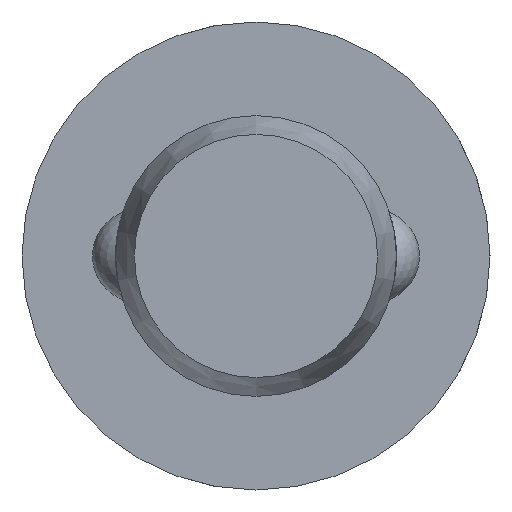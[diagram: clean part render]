
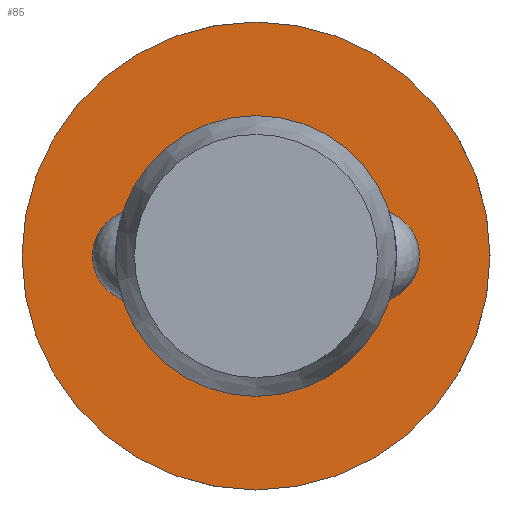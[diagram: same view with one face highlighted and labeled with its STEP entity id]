
A CAD part, left-side view. The second image highlights one B-rep face of the part: STEP entity #85.
In plain terms, the highlighted planar face has unit normal (-1, 0, 0).
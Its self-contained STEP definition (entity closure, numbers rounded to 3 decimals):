
#85 = ADVANCED_FACE( '', ( #131, #132 ), #133, .F. );
#131 = FACE_OUTER_BOUND( '', #204, .T. );
#132 = FACE_BOUND( '', #205, .T. );
#133 = PLANE( '', #206 );
#204 = EDGE_LOOP( '', ( #322 ) );
#205 = EDGE_LOOP( '', ( #323 ) );
#206 = AXIS2_PLACEMENT_3D( '', #324, #325, #326 );
#322 = ORIENTED_EDGE( '', *, *, #470, .F. );
#323 = ORIENTED_EDGE( '', *, *, #467, .T. );
#324 = CARTESIAN_POINT( '', ( 17., 3., 0. ) );
#325 = DIRECTION( '', ( 1., 0., 0. ) );
#326 = DIRECTION( '', ( 0., 0., -1. ) );
#467 = EDGE_CURVE( '', #541, #541, #542, .T. );
#470 = EDGE_CURVE( '', #547, #547, #548, .T. );
#541 = VERTEX_POINT( '', #749 );
#542 = CIRCLE( '', #750, 3. );
#547 = VERTEX_POINT( '', #817 );
#548 = CIRCLE( '', #818, 5. );
#749 = CARTESIAN_POINT( '', ( 17., 0., -3. ) );
#750 = AXIS2_PLACEMENT_3D( '', #897, #898, #899 );
#817 = CARTESIAN_POINT( '', ( 17., 0., -5. ) );
#818 = AXIS2_PLACEMENT_3D( '', #900, #901, #902 );
#897 = CARTESIAN_POINT( '', ( 17., 0., 0. ) );
#898 = DIRECTION( '', ( 1., 0., 0. ) );
#899 = DIRECTION( '', ( 0., 0., -1. ) );
#900 = CARTESIAN_POINT( '', ( 17., 0., 0. ) );
#901 = DIRECTION( '', ( 1., 0., 0. ) );
#902 = DIRECTION( '', ( 0., 0., -1. ) );
